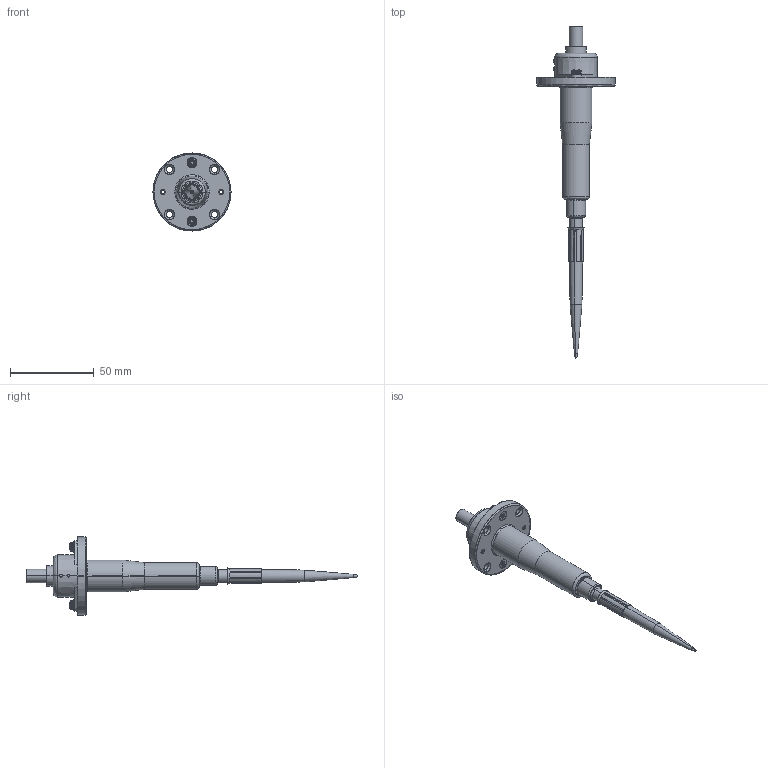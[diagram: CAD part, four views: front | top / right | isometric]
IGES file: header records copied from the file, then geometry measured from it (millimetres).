
Start section: SolidWorks IGES file using analytic representation for surfaces
Global section: file name: C:\SWPDM\GDT\TriContinent\Production Docs\MOD\Assembly Web\MOD91001\MOD91001 RF.IGS; native system: SolidWorks 2017; preprocessor: SolidWorks 2017; author: klb2003; date: 180613.082301; units: inch
Bounding box: 46.74 x 198.63 x 46.74 mm (x, y, z)
Surface area: 20642.3 mm2 (no closed solid volume)
Topology: 0 solids, 0 shells, 2503 faces, 18765 edges, 18765 vertices
Faces by surface type: bspline 1643, revolution 860
